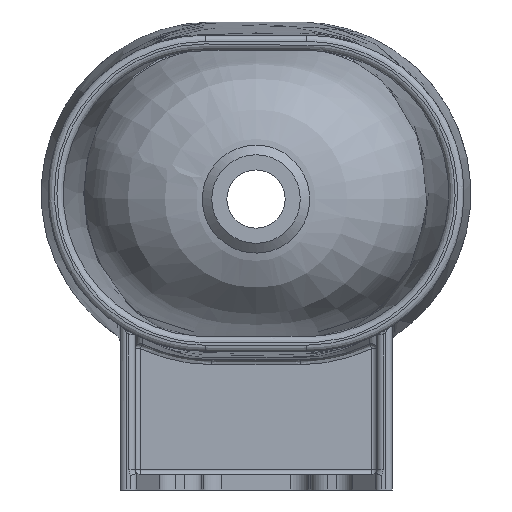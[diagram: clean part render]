
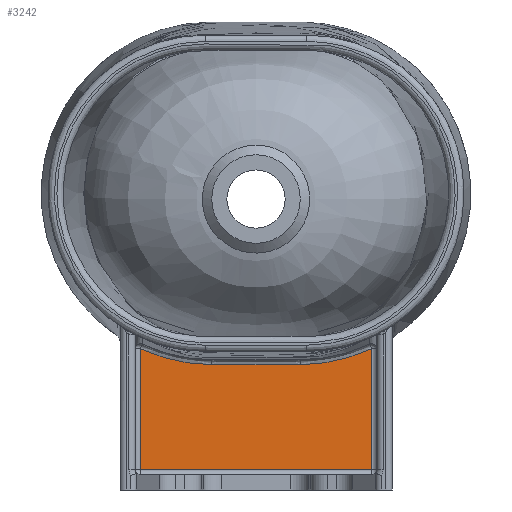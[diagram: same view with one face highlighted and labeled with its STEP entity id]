
A CAD part, front view. The second image highlights one B-rep face of the part: STEP entity #3242.
In plain terms, the highlighted planar face has unit normal (0, -1, 0).
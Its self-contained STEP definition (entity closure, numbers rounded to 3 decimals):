
#323 = B_SPLINE_CURVE_WITH_KNOTS ( 'NONE', 3,
 ( #22722, #6762, #15517, #7285, #23244, #42938, #15001, #31486, #39476, #3032, #14743, #47443, #35222, #34699, #31227, #38960, #2251, #27761, #39220 ),
 .UNSPECIFIED., .F., .F.,
 ( 4, 2, 1, 2, 2, 1, 2, 2, 1, 2, 4 ),
 ( 0., 0.002, 0.004, 0.009, 0.018, 0.035, 0.053, 0.061, 0.066, 0.068, 0.07 ),
 .UNSPECIFIED. ) ;
#360 = CARTESIAN_POINT ( 'NONE',  ( 35.105, -12., -135.496 ) ) ;
#541 = DIRECTION ( 'NONE',  ( 0., 0., -1. ) ) ;
#866 = ORIENTED_EDGE ( 'NONE', *, *, #47856, .T. ) ;
#871 = EDGE_CURVE ( 'NONE', #25113, #1908, #3103, .T. ) ;
#1908 = VERTEX_POINT ( 'NONE', #28059 ) ;
#2251 = CARTESIAN_POINT ( 'NONE',  ( -33.642, -12., -135.506 ) ) ;
#2353 = CARTESIAN_POINT ( 'NONE',  ( -91.5, -12., -122.785 ) ) ;
#3032 = CARTESIAN_POINT ( 'NONE',  ( 0., -12., -135.627 ) ) ;
#3103 = B_SPLINE_CURVE_WITH_KNOTS ( 'NONE', 3,
 ( #31326, #18820, #26292, #39058, #6862, #27338, #31589, #10853, #47541, #35059, #39319, #2353 ),
 .UNSPECIFIED., .F., .F.,
 ( 4, 2, 2, 2, 2, 4 ),
 ( 0., 0.015, 0.022, 0.029, 0.044, 0.058 ),
 .UNSPECIFIED. ) ;
#3121 = CARTESIAN_POINT ( 'NONE',  ( 95.5, -12., -218.5 ) ) ;
#3242 = ADVANCED_FACE ( 'NONE', ( #16677 ), #49136, .F. ) ;
#3373 = B_SPLINE_CURVE_WITH_KNOTS ( 'NONE', 3,
 ( #17367, #49561, #37597, #33343, #8350, #12340, #41313, #32808, #45306, #48513, #4348, #20561, #28301, #360 ),
 .UNSPECIFIED., .F., .F.,
 ( 4, 2, 2, 2, 2, 2, 4 ),
 ( 0., 0.007, 0.015, 0.029, 0.037, 0.044, 0.058 ),
 .UNSPECIFIED. ) ;
#3678 = DIRECTION ( 'NONE',  ( 0., 1., 0. ) ) ;
#4348 = CARTESIAN_POINT ( 'NONE',  ( 52.042, -12., -134.296 ) ) ;
#5101 = ORIENTED_EDGE ( 'NONE', *, *, #41408, .T. ) ;
#6762 = CARTESIAN_POINT ( 'NONE',  ( 34.374, -12., -135.503 ) ) ;
#6763 = ORIENTED_EDGE ( 'NONE', *, *, #40877, .T. ) ;
#6847 = LINE ( 'NONE', #3121, #10411 ) ;
#6862 = CARTESIAN_POINT ( 'NONE',  ( -54.459, -12., -133.949 ) ) ;
#7017 = VECTOR ( 'NONE', #51526, 1000. ) ;
#7285 = CARTESIAN_POINT ( 'NONE',  ( 32.179, -12., -135.515 ) ) ;
#8350 = CARTESIAN_POINT ( 'NONE',  ( 80.277, -12., -127.411 ) ) ;
#9883 = VERTEX_POINT ( 'NONE', #52204 ) ;
#10411 = VECTOR ( 'NONE', #19333, 1000. ) ;
#10853 = CARTESIAN_POINT ( 'NONE',  ( -68.755, -12., -131.055 ) ) ;
#12340 = CARTESIAN_POINT ( 'NONE',  ( 73.4, -12., -129.746 ) ) ;
#12365 = AXIS2_PLACEMENT_3D ( 'NONE', #52602, #3678, #32914 ) ;
#13025 = ORIENTED_EDGE ( 'NONE', *, *, #871, .T. ) ;
#13654 = CARTESIAN_POINT ( 'NONE',  ( -35.105, -12., -135.496 ) ) ;
#14681 = VERTEX_POINT ( 'NONE', #48540 ) ;
#14743 = CARTESIAN_POINT ( 'NONE',  ( -11.702, -12., -135.606 ) ) ;
#15001 = CARTESIAN_POINT ( 'NONE',  ( 23.403, -12., -135.562 ) ) ;
#15517 = CARTESIAN_POINT ( 'NONE',  ( 33.642, -12., -135.506 ) ) ;
#16677 = FACE_OUTER_BOUND ( 'NONE', #21604, .T. ) ;
#17018 = CARTESIAN_POINT ( 'NONE',  ( -91.5, -12., -222.5 ) ) ;
#17367 = CARTESIAN_POINT ( 'NONE',  ( 91.5, -12., -122.785 ) ) ;
#18820 = CARTESIAN_POINT ( 'NONE',  ( -39.977, -12., -135.445 ) ) ;
#19072 = CARTESIAN_POINT ( 'NONE',  ( 91.5, -12., -117.304 ) ) ;
#19333 = DIRECTION ( 'NONE',  ( 1., 0., 0. ) ) ;
#20552 = VECTOR ( 'NONE', #541, 1000. ) ;
#20561 = CARTESIAN_POINT ( 'NONE',  ( 44.818, -12., -135.137 ) ) ;
#21604 = EDGE_LOOP ( 'NONE', ( #49991, #866, #13025, #26571, #5101, #6763 ) ) ;
#22722 = CARTESIAN_POINT ( 'NONE',  ( 35.105, -12., -135.496 ) ) ;
#23244 = CARTESIAN_POINT ( 'NONE',  ( 29.985, -12., -135.528 ) ) ;
#23766 = CARTESIAN_POINT ( 'NONE',  ( 35.105, -12., -135.496 ) ) ;
#23835 = EDGE_CURVE ( 'NONE', #25866, #48400, #3373, .T. ) ;
#25113 = VERTEX_POINT ( 'NONE', #13654 ) ;
#25866 = VERTEX_POINT ( 'NONE', #33902 ) ;
#26292 = CARTESIAN_POINT ( 'NONE',  ( -44.824, -12., -135.136 ) ) ;
#26571 = ORIENTED_EDGE ( 'NONE', *, *, #33209, .T. ) ;
#27338 = CARTESIAN_POINT ( 'NONE',  ( -59.254, -12., -133.132 ) ) ;
#27761 = CARTESIAN_POINT ( 'NONE',  ( -34.374, -12., -135.503 ) ) ;
#28059 = CARTESIAN_POINT ( 'NONE',  ( -91.5, -12., -122.785 ) ) ;
#28301 = CARTESIAN_POINT ( 'NONE',  ( 39.975, -12., -135.445 ) ) ;
#31227 = CARTESIAN_POINT ( 'NONE',  ( -29.985, -12., -135.528 ) ) ;
#31326 = CARTESIAN_POINT ( 'NONE',  ( -35.105, -12., -135.496 ) ) ;
#31486 = CARTESIAN_POINT ( 'NONE',  ( 20.478, -12., -135.575 ) ) ;
#31589 = CARTESIAN_POINT ( 'NONE',  ( -61.647, -12., -132.659 ) ) ;
#32730 = LINE ( 'NONE', #17018, #20552 ) ;
#32808 = CARTESIAN_POINT ( 'NONE',  ( 61.624, -12., -132.664 ) ) ;
#32914 = DIRECTION ( 'NONE',  ( 0., 0., 1. ) ) ;
#33209 = EDGE_CURVE ( 'NONE', #1908, #14681, #32730, .T. ) ;
#33343 = CARTESIAN_POINT ( 'NONE',  ( 82.549, -12., -126.572 ) ) ;
#33902 = CARTESIAN_POINT ( 'NONE',  ( 91.5, -12., -122.785 ) ) ;
#34699 = CARTESIAN_POINT ( 'NONE',  ( -27.791, -12., -135.54 ) ) ;
#35059 = CARTESIAN_POINT ( 'NONE',  ( -82.575, -12., -126.63 ) ) ;
#35222 = CARTESIAN_POINT ( 'NONE',  ( -23.403, -12., -135.562 ) ) ;
#37597 = CARTESIAN_POINT ( 'NONE',  ( 87.055, -12., -124.771 ) ) ;
#38960 = CARTESIAN_POINT ( 'NONE',  ( -32.179, -12., -135.515 ) ) ;
#39058 = CARTESIAN_POINT ( 'NONE',  ( -52.055, -12., -134.294 ) ) ;
#39220 = CARTESIAN_POINT ( 'NONE',  ( -35.105, -12., -135.496 ) ) ;
#39319 = CARTESIAN_POINT ( 'NONE',  ( -87.078, -12., -124.832 ) ) ;
#39476 = CARTESIAN_POINT ( 'NONE',  ( 11.702, -12., -135.606 ) ) ;
#40877 = EDGE_CURVE ( 'NONE', #9883, #25866, #51789, .T. ) ;
#41313 = CARTESIAN_POINT ( 'NONE',  ( 68.737, -12., -131.06 ) ) ;
#41408 = EDGE_CURVE ( 'NONE', #14681, #9883, #6847, .T. ) ;
#42938 = CARTESIAN_POINT ( 'NONE',  ( 27.791, -12., -135.54 ) ) ;
#45306 = CARTESIAN_POINT ( 'NONE',  ( 59.232, -12., -133.137 ) ) ;
#47443 = CARTESIAN_POINT ( 'NONE',  ( -20.478, -12., -135.575 ) ) ;
#47541 = CARTESIAN_POINT ( 'NONE',  ( -73.414, -12., -129.742 ) ) ;
#47856 = EDGE_CURVE ( 'NONE', #48400, #25113, #323, .T. ) ;
#48400 = VERTEX_POINT ( 'NONE', #23766 ) ;
#48513 = CARTESIAN_POINT ( 'NONE',  ( 54.443, -12., -133.952 ) ) ;
#48540 = CARTESIAN_POINT ( 'NONE',  ( -91.5, -12., -218.5 ) ) ;
#49136 = PLANE ( 'NONE',  #12365 ) ;
#49561 = CARTESIAN_POINT ( 'NONE',  ( 89.29, -12., -123.808 ) ) ;
#49991 = ORIENTED_EDGE ( 'NONE', *, *, #23835, .T. ) ;
#51526 = DIRECTION ( 'NONE',  ( 0., 0., 1. ) ) ;
#51789 = LINE ( 'NONE', #19072, #7017 ) ;
#52204 = CARTESIAN_POINT ( 'NONE',  ( 91.5, -12., -218.5 ) ) ;
#52602 = CARTESIAN_POINT ( 'NONE',  ( -35., -12., 0. ) ) ;
